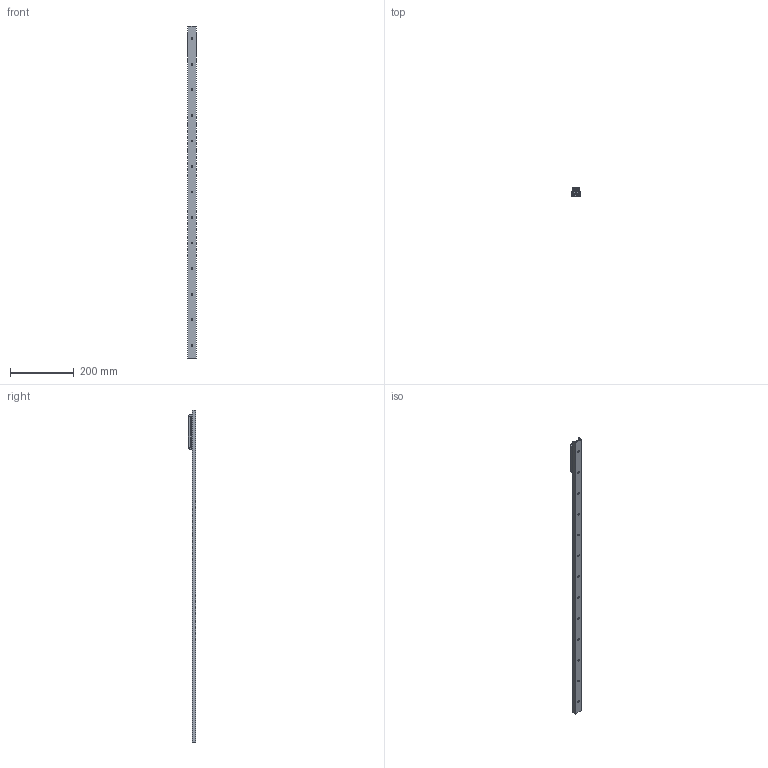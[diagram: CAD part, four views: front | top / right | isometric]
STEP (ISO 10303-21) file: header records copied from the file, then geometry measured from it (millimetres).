
FILE_DESCRIPTION( ( 'STEP AP214' ), '1' );
FILE_NAME( 'p:/temp/worker_24/temp/exporttempdir_1400_413_BzfTg/format_2/TGV-01040_1_RV28G-3.stp', '2020-11-20T15:19:03', ( 'License CC BY-ND 4.0' ), ( 'CADENAS' ), ' ', 'PARTsolutions', ' ' );
FILE_SCHEMA( ( 'AUTOMOTIVE_DESIGN { 1 0 10303 214 1 1 1 1 }' ) );
Length unit declared in the file: millimetre
Products named in the file (6): TGV-01040/1/RV28G-3; _TGV28-1040-(3-1); _RV28G-3-slider; _RGNV28R; _RGAV28R; _WR28G-01
Assembly tree (7 placements, depth 2):
  TGV-01040/1/RV28G-3
    _TGV28-1040-(3-1)
    _RV28G-3-slider
    _RGNV28R  x2
    _RGAV28R
    _WR28G-01  x2
Bounding box: 28 x 24 x 1040 mm (x, y, z)
Volume: 186650.5 mm3; surface area: 118146.1 mm2
Topology: 7 solids, 7 shells, 1038 faces, 2710 edges, 1768 vertices
Faces by surface type: plane 657, cylinder 293, cone 53, bspline 26, torus 9
Full cylindrical faces by diameter (mm): 1.27 x4, 2 x2, 2.5 x6, 4 x4, 4.134 x4, 4.2 x3, 5 x3, 5.5 x3, 5.75 x13, 7 x5, 7.5 x1, 8 x6, 10.8 x3, 17 x3, 20.75 x6
Entity records: 24961 total; most frequent: CARTESIAN_POINT 3979, DIRECTION 3330, ORIENTED_EDGE 3072, EDGE_CURVE 1536, AXIS2_PLACEMENT_3D 1270, VERTEX_POINT 1068, EDGE_LOOP 869, LINE 790
